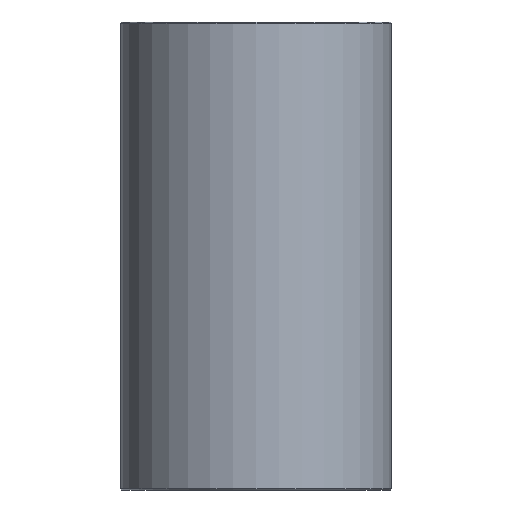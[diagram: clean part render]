
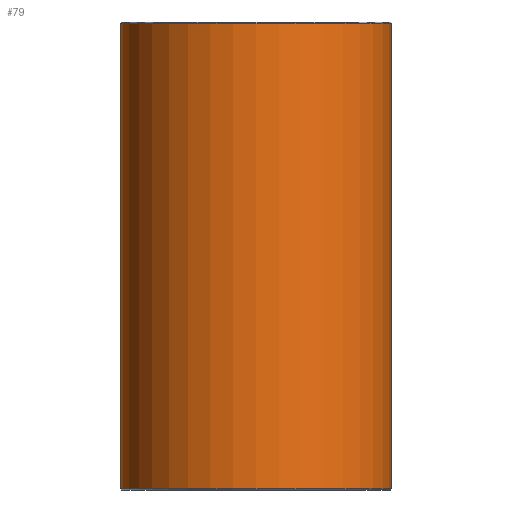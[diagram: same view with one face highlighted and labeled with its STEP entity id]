
A CAD part, front view. The second image highlights one B-rep face of the part: STEP entity #79.
In plain terms, the highlighted cylindrical face has radius 26 mm (diameter 52 mm), a full revolution.
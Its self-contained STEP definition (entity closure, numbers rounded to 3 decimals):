
#79=ADVANCED_FACE('',(#96,#97),#98,.T.);
#96=FACE_OUTER_BOUND('',#120,.T.);
#97=FACE_OUTER_BOUND('',#121,.T.);
#98=CYLINDRICAL_SURFACE('',#122,26.0);
#120=EDGE_LOOP('',(#152));
#121=EDGE_LOOP('',(#153));
#122=AXIS2_PLACEMENT_3D('',#154,#155,#156);
#152=ORIENTED_EDGE('',*,*,#178,.T.);
#153=ORIENTED_EDGE('',*,*,#177,.T.);
#154=CARTESIAN_POINT('',(0.0,0.0,90.0));
#155=DIRECTION('',(0.0,0.0,-1.0));
#156=DIRECTION('',(-1.0,0.0,0.0));
#177=EDGE_CURVE('',#190,#190,#191,.T.);
#178=EDGE_CURVE('',#192,#192,#193,.F.);
#190=VERTEX_POINT('',#206);
#191=CIRCLE('',#207,26.0);
#192=VERTEX_POINT('',#208);
#193=CIRCLE('',#209,26.0);
#206=CARTESIAN_POINT('',(26.0,0.0,0.2));
#207=AXIS2_PLACEMENT_3D('',#227,#228,#229);
#208=CARTESIAN_POINT('',(26.0,0.,89.8));
#209=AXIS2_PLACEMENT_3D('',#230,#231,#232);
#227=CARTESIAN_POINT('',(0.0,0.0,0.2));
#228=DIRECTION('',(0.0,0.0,1.0));
#229=DIRECTION('',(1.0,0.0,0.0));
#230=CARTESIAN_POINT('',(0.0,0.0,89.8));
#231=DIRECTION('',(0.0,0.0,1.0));
#232=DIRECTION('',(1.0,0.0,0.0));
